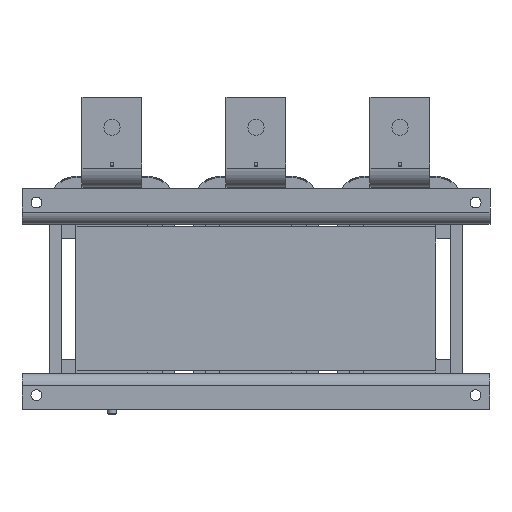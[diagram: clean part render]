
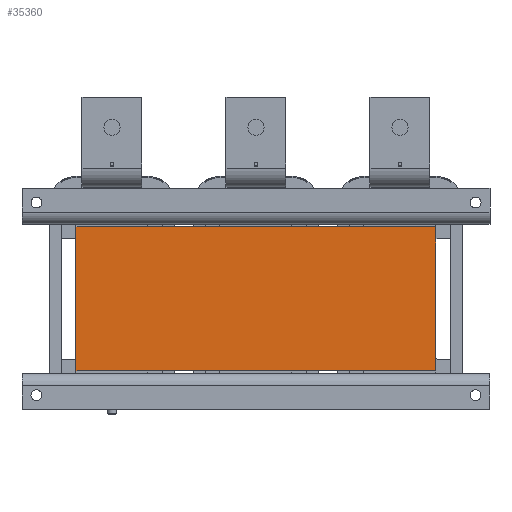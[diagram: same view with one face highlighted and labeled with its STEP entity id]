
A CAD part, front view. The second image highlights one B-rep face of the part: STEP entity #35360.
In plain terms, the highlighted planar face has unit normal (0, -1, 0).
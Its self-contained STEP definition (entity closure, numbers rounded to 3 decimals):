
#1746=LINE('',#54457,#5188);
#1747=LINE('',#54459,#5189);
#1748=LINE('',#54461,#5190);
#1749=LINE('',#54462,#5191);
#5188=VECTOR('',#42310,10.);
#5189=VECTOR('',#42311,10.);
#5190=VECTOR('',#42312,10.);
#5191=VECTOR('',#42313,10.);
#8027=PLANE('',#37563);
#11016=FACE_OUTER_BOUND('',#13114,.T.);
#13114=EDGE_LOOP('',(#25716,#25717,#25718,#25719));
#16021=VERTEX_POINT('',#54455);
#16022=VERTEX_POINT('',#54456);
#16023=VERTEX_POINT('',#54458);
#16024=VERTEX_POINT('',#54460);
#19671=EDGE_CURVE('',#16021,#16022,#1746,.T.);
#19672=EDGE_CURVE('',#16023,#16021,#1747,.T.);
#19673=EDGE_CURVE('',#16023,#16024,#1748,.T.);
#19674=EDGE_CURVE('',#16022,#16024,#1749,.T.);
#25716=ORIENTED_EDGE('',*,*,#19671,.F.);
#25717=ORIENTED_EDGE('',*,*,#19672,.F.);
#25718=ORIENTED_EDGE('',*,*,#19673,.T.);
#25719=ORIENTED_EDGE('',*,*,#19674,.F.);
#35360=ADVANCED_FACE('',(#11016),#8027,.T.);
#37563=AXIS2_PLACEMENT_3D('',#54454,#42308,#42309);
#42308=DIRECTION('center_axis',(0.,-1.,0.));
#42309=DIRECTION('ref_axis',(1.,0.,0.));
#42310=DIRECTION('',(0.,0.,1.));
#42311=DIRECTION('',(-1.,0.,0.));
#42312=DIRECTION('',(0.,0.,1.));
#42313=DIRECTION('',(1.,0.,0.));
#54454=CARTESIAN_POINT('Origin',(-150.,-284.57,0.));
#54455=CARTESIAN_POINT('',(-150.,-284.57,-60.));
#54456=CARTESIAN_POINT('',(-150.,-284.57,60.));
#54457=CARTESIAN_POINT('',(-150.,-284.57,0.));
#54458=CARTESIAN_POINT('',(150.,-284.57,-60.));
#54459=CARTESIAN_POINT('',(-150.,-284.57,-60.));
#54460=CARTESIAN_POINT('',(150.,-284.57,60.));
#54461=CARTESIAN_POINT('',(150.,-284.57,0.));
#54462=CARTESIAN_POINT('',(-150.,-284.57,60.));
